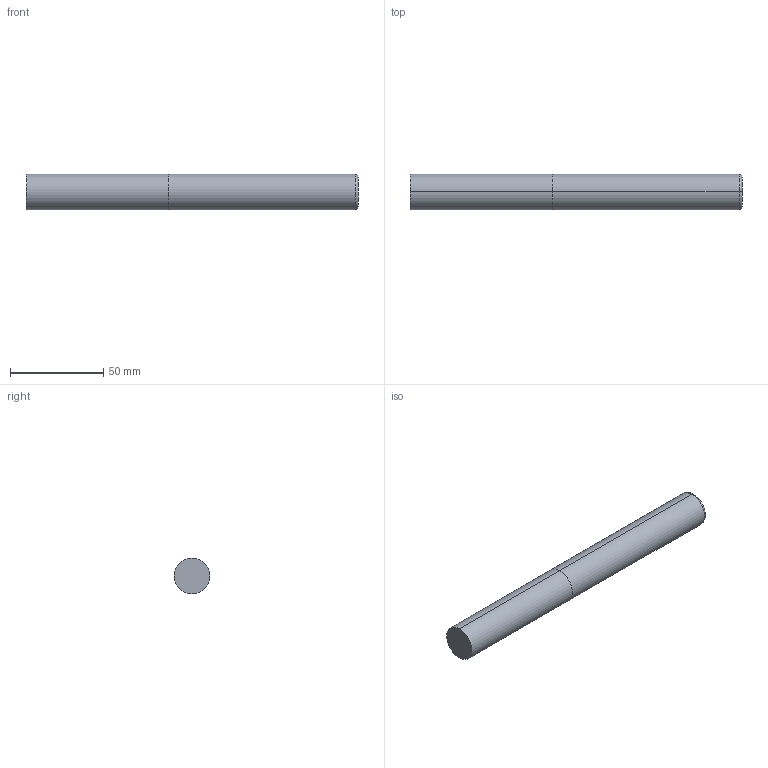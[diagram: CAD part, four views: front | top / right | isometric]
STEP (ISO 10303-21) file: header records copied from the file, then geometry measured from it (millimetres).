
FILE_DESCRIPTION (( 'STEP AP214' ), '1' );
FILE_NAME ('SSIX50750-060.STEP', '2025-05-28T20:33:44', ( '' ), ( '' ), 'SwSTEP 2.0', 'SolidWorks 2023', '' );
FILE_SCHEMA (( 'AUTOMOTIVE_DESIGN' ));
Length unit declared in the file: inch
Products named in the file (3): SSI5 Imperial SHANK ONLY_SSIX50750-060; SSIX50750-060; SSI5 Imperial LOC ONLY_SSIX50750-060
Assembly tree (2 placements, depth 2):
  SSIX50750-060
    SSI5 Imperial LOC ONLY_SSIX50750-060
    SSI5 Imperial SHANK ONLY_SSIX50750-060
Bounding box: 177.8 x 19.05 x 19.05 mm (x, y, z)
Volume: 50648.3 mm3; surface area: 11740.8 mm2
Topology: 2 solids, 2 shells, 10 faces, 16 edges, 10 vertices
Faces by surface type: cylinder 4, plane 4, torus 2
Entity records: 412 total; most frequent: DIRECTION 58, CARTESIAN_POINT 41, ORIENTED_EDGE 32, AXIS2_PLACEMENT_3D 27, EDGE_CURVE 16, CIRCLE 12, DIMENSIONAL_EXPONENTS 11, LENGTH_MEASURE_WITH_UNIT 11
